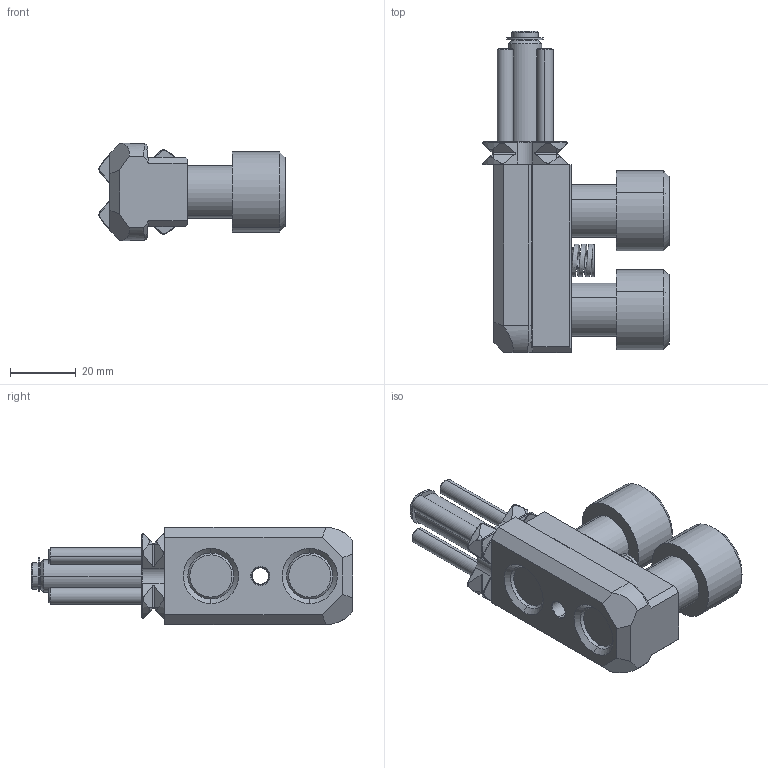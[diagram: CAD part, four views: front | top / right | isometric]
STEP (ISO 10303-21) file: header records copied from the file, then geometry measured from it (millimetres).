
FILE_DESCRIPTION (( 'STEP AP214' ), '1' );
FILE_NAME ('DHP-61P862220.STEP', '2023-10-06T05:34:40', ( '' ), ( '' ), 'SwSTEP 2.0', 'SolidWorks 2022', '' );
FILE_SCHEMA (( 'AUTOMOTIVE_DESIGN' ));
Length unit declared in the file: millimetre
Products named in the file (7): DHP-61P862220; 0080010540; DHP-61P295171; 0286010005; 0030116035; 068AAA0358_自由長_25mm_(k=24.5N／mm); DHP-61P494597
Assembly tree (10 placements, depth 2):
  DHP-61P862220
    DHP-61P295171
    DHP-61P494597
    0030116035  x2
    068AAA0358_自由長_25mm_(k=24.5N／mm)
    0080010540  x4
    0286010005
Bounding box: 56.49 x 97.5 x 29.5 mm (x, y, z)
Volume: 57750.5 mm3; surface area: 25328.1 mm2
Topology: 10 solids, 10 shells, 392 faces, 957 edges, 573 vertices
Faces by surface type: cone 148, plane 128, cylinder 98, torus 12, bspline 6
Entity records: 20362 total; most frequent: CARTESIAN_POINT 12615, DIRECTION 1545, ORIENTED_EDGE 1494, EDGE_CURVE 747, AXIS2_PLACEMENT_3D 581, VERTEX_POINT 458, LINE 383, VECTOR 383
